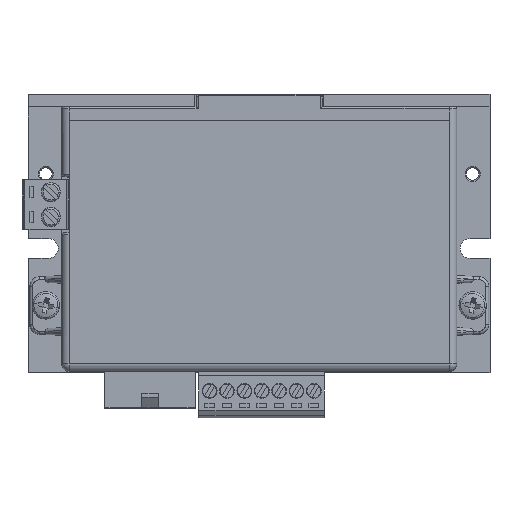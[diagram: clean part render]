
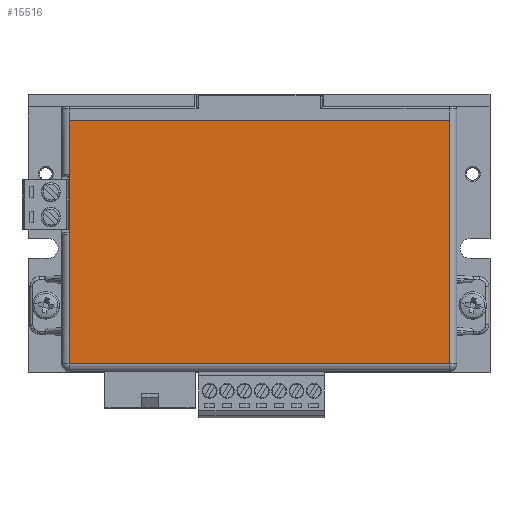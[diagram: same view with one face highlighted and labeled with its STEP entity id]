
A CAD part, top view. The second image highlights one B-rep face of the part: STEP entity #15516.
In plain terms, the highlighted planar face has unit normal (0, 0, 1).
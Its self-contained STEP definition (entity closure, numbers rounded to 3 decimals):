
#1466 = DIRECTION ( 'NONE',  ( 0., 1., 0. ) ) ;
#3226 = VECTOR ( 'NONE', #57723, 1000. ) ;
#5756 = AXIS2_PLACEMENT_3D ( 'NONE', #39908, #21929, #16935 ) ;
#6191 = LINE ( 'NONE', #47164, #32600 ) ;
#6757 = EDGE_CURVE ( 'NONE', #43893, #33125, #6191, .T. ) ;
#7748 = CARTESIAN_POINT ( 'NONE',  ( 38.3, 24.5, 0. ) ) ;
#8665 = PLANE ( 'NONE',  #5756 ) ;
#9039 = EDGE_CURVE ( 'NONE', #34273, #43893, #28110, .T. ) ;
#15516 = ADVANCED_FACE ( 'NONE', ( #35780 ), #8665, .F. ) ;
#16935 = DIRECTION ( 'NONE',  ( 0., -1., 0. ) ) ;
#17275 = LINE ( 'NONE', #30276, #3226 ) ;
#17407 = ORIENTED_EDGE ( 'NONE', *, *, #58373, .T. ) ;
#21756 = CARTESIAN_POINT ( 'NONE',  ( -38.3, 24.5, 0. ) ) ;
#21929 = DIRECTION ( 'NONE',  ( 0., 0., -1. ) ) ;
#26197 = LINE ( 'NONE', #21756, #29863 ) ;
#27114 = EDGE_LOOP ( 'NONE', ( #28485, #32890, #17407, #37749 ) ) ;
#27363 = CARTESIAN_POINT ( 'NONE',  ( -38.3, 24.5, 0. ) ) ;
#27812 = DIRECTION ( 'NONE',  ( 1., 0., 0. ) ) ;
#28110 = LINE ( 'NONE', #51386, #28209 ) ;
#28209 = VECTOR ( 'NONE', #27812, 1000. ) ;
#28485 = ORIENTED_EDGE ( 'NONE', *, *, #6757, .T. ) ;
#29230 = CARTESIAN_POINT ( 'NONE',  ( -38.3, -24.5, 0. ) ) ;
#29863 = VECTOR ( 'NONE', #39740, 1000. ) ;
#30276 = CARTESIAN_POINT ( 'NONE',  ( -38.3, -24.5, 0. ) ) ;
#32600 = VECTOR ( 'NONE', #1466, 1000. ) ;
#32890 = ORIENTED_EDGE ( 'NONE', *, *, #34754, .T. ) ;
#33125 = VERTEX_POINT ( 'NONE', #7748 ) ;
#34273 = VERTEX_POINT ( 'NONE', #29230 ) ;
#34754 = EDGE_CURVE ( 'NONE', #33125, #51903, #26197, .T. ) ;
#35780 = FACE_OUTER_BOUND ( 'NONE', #27114, .T. ) ;
#37749 = ORIENTED_EDGE ( 'NONE', *, *, #9039, .T. ) ;
#39740 = DIRECTION ( 'NONE',  ( -1., 0., 0. ) ) ;
#39908 = CARTESIAN_POINT ( 'NONE',  ( 0., 0., 0. ) ) ;
#43407 = CARTESIAN_POINT ( 'NONE',  ( 38.3, -24.5, 0. ) ) ;
#43893 = VERTEX_POINT ( 'NONE', #43407 ) ;
#47164 = CARTESIAN_POINT ( 'NONE',  ( 38.3, -24.5, 0. ) ) ;
#51386 = CARTESIAN_POINT ( 'NONE',  ( -38.3, -24.5, 0. ) ) ;
#51903 = VERTEX_POINT ( 'NONE', #27363 ) ;
#57723 = DIRECTION ( 'NONE',  ( 0., -1., 0. ) ) ;
#58373 = EDGE_CURVE ( 'NONE', #51903, #34273, #17275, .T. ) ;
